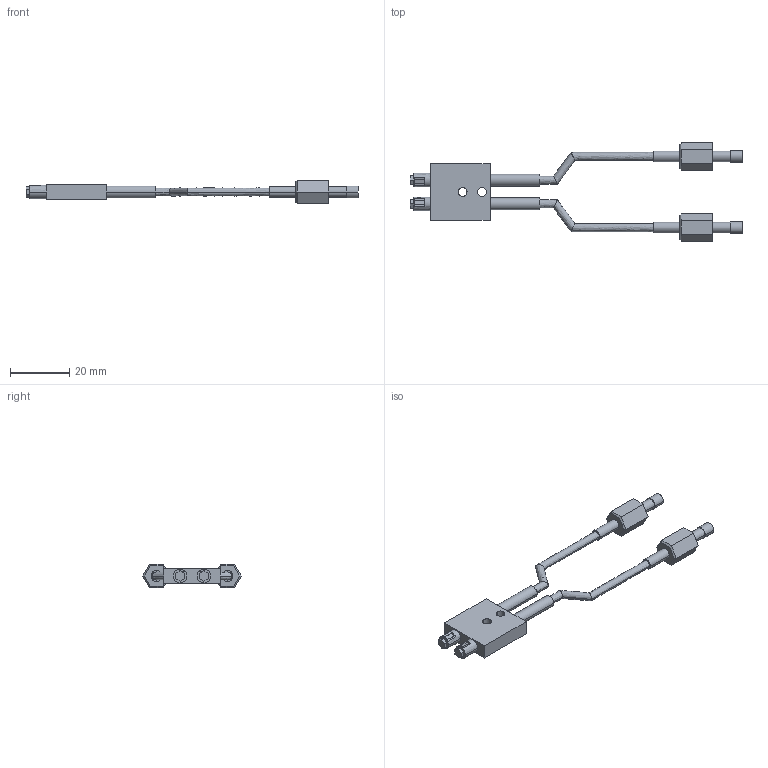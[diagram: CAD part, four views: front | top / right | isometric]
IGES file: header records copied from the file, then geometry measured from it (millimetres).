
Start section: SolidWorks IGES FILE using analytic representation for surfaces
Global section: file name: C:\Documents and Settings\yk0651\デスクトップ\3D_catalog_050904\0_IGES\FD-H30-L32V.IGS; native system: SolidWorks 2004 by SolidWorks Corporation; preprocessor: Version 5.3; author: yk0651; date: 050904.184414; units: millimetre
Bounding box: 112 x 33.24 x 8 mm (x, y, z)
Volume: 4384.9 mm3; surface area: 4390.6 mm2
Topology: 5 solids, 5 shells, 116 faces, 256 edges, 164 vertices
Faces by surface type: plane 76, revolution 40
